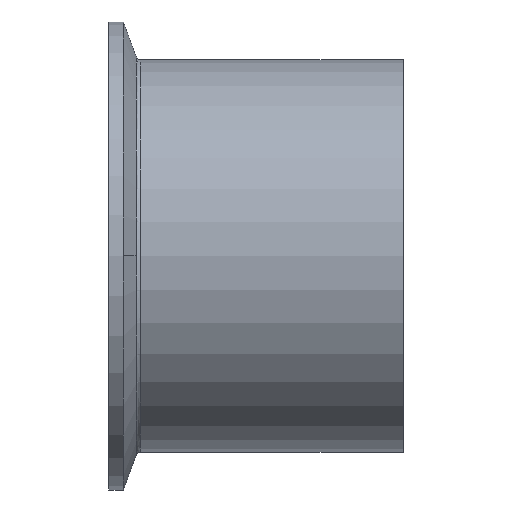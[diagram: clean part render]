
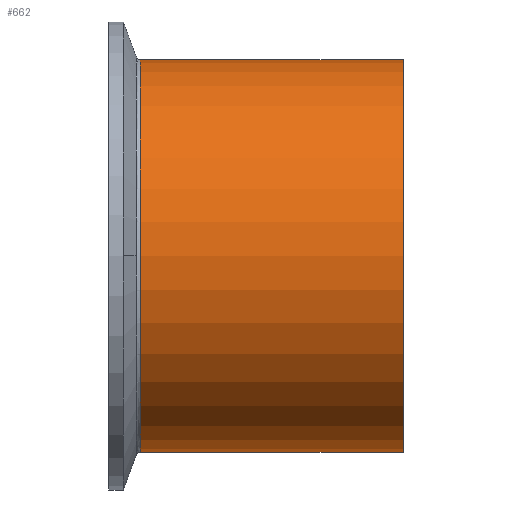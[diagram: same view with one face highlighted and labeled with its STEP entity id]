
A CAD part, top view. The second image highlights one B-rep face of the part: STEP entity #662.
In plain terms, the highlighted cylindrical face has radius 38.1 mm (diameter 76.2 mm), a partial arc.
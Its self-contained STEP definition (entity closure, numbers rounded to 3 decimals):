
#43 = CARTESIAN_POINT ( 'NONE',  ( 0., 38.1, 0. ) ) ;
#124 = FACE_OUTER_BOUND ( 'NONE', #642, .T. ) ;
#144 = DIRECTION ( 'NONE',  ( 1., 0., 0. ) ) ;
#158 = AXIS2_PLACEMENT_3D ( 'NONE', #1211, #533, #1331 ) ;
#159 = VERTEX_POINT ( 'NONE', #238 ) ;
#173 = VERTEX_POINT ( 'NONE', #355 ) ;
#238 = CARTESIAN_POINT ( 'NONE',  ( 0., -38.1, 0. ) ) ;
#242 = ORIENTED_EDGE ( 'NONE', *, *, #701, .T. ) ;
#247 = CARTESIAN_POINT ( 'NONE',  ( -51.039, 0., 0. ) ) ;
#279 = EDGE_CURVE ( 'NONE', #173, #445, #916, .T. ) ;
#307 = LINE ( 'NONE', #1347, #439 ) ;
#355 = CARTESIAN_POINT ( 'NONE',  ( -51.039, 38.1, 0. ) ) ;
#359 = CARTESIAN_POINT ( 'NONE',  ( 45.786, 0., 0. ) ) ;
#367 = DIRECTION ( 'NONE',  ( 0., 1., 0. ) ) ;
#379 = EDGE_CURVE ( 'NONE', #445, #159, #550, .T. ) ;
#398 = CYLINDRICAL_SURFACE ( 'NONE', #1144, 38.1 ) ;
#439 = VECTOR ( 'NONE', #144, 1000. ) ;
#445 = VERTEX_POINT ( 'NONE', #43 ) ;
#484 = DIRECTION ( 'NONE',  ( 1., 0., 0. ) ) ;
#533 = DIRECTION ( 'NONE',  ( 1., 0., 0. ) ) ;
#550 = CIRCLE ( 'NONE', #158, 38.1 ) ;
#593 = EDGE_CURVE ( 'NONE', #868, #159, #307, .T. ) ;
#642 = EDGE_LOOP ( 'NONE', ( #242, #826, #1337, #1445 ) ) ;
#662 = ADVANCED_FACE ( 'NONE', ( #124 ), #398, .T. ) ;
#701 = EDGE_CURVE ( 'NONE', #173, #868, #999, .T. ) ;
#826 = ORIENTED_EDGE ( 'NONE', *, *, #593, .T. ) ;
#868 = VERTEX_POINT ( 'NONE', #897 ) ;
#897 = CARTESIAN_POINT ( 'NONE',  ( -51.039, -38.1, 0. ) ) ;
#916 = LINE ( 'NONE', #1093, #1405 ) ;
#999 = CIRCLE ( 'NONE', #1063, 38.1 ) ;
#1045 = DIRECTION ( 'NONE',  ( 1., 0., 0. ) ) ;
#1063 = AXIS2_PLACEMENT_3D ( 'NONE', #247, #1045, #367 ) ;
#1070 = DIRECTION ( 'NONE',  ( 1., 0., 0. ) ) ;
#1093 = CARTESIAN_POINT ( 'NONE',  ( 45.786, 38.1, 0. ) ) ;
#1144 = AXIS2_PLACEMENT_3D ( 'NONE', #359, #484, #1281 ) ;
#1211 = CARTESIAN_POINT ( 'NONE',  ( 0., 0., 0. ) ) ;
#1281 = DIRECTION ( 'NONE',  ( 0., 1., 0. ) ) ;
#1331 = DIRECTION ( 'NONE',  ( 0., 1., 0. ) ) ;
#1337 = ORIENTED_EDGE ( 'NONE', *, *, #379, .F. ) ;
#1347 = CARTESIAN_POINT ( 'NONE',  ( 45.786, -38.1, 0. ) ) ;
#1405 = VECTOR ( 'NONE', #1070, 1000. ) ;
#1445 = ORIENTED_EDGE ( 'NONE', *, *, #279, .F. ) ;
